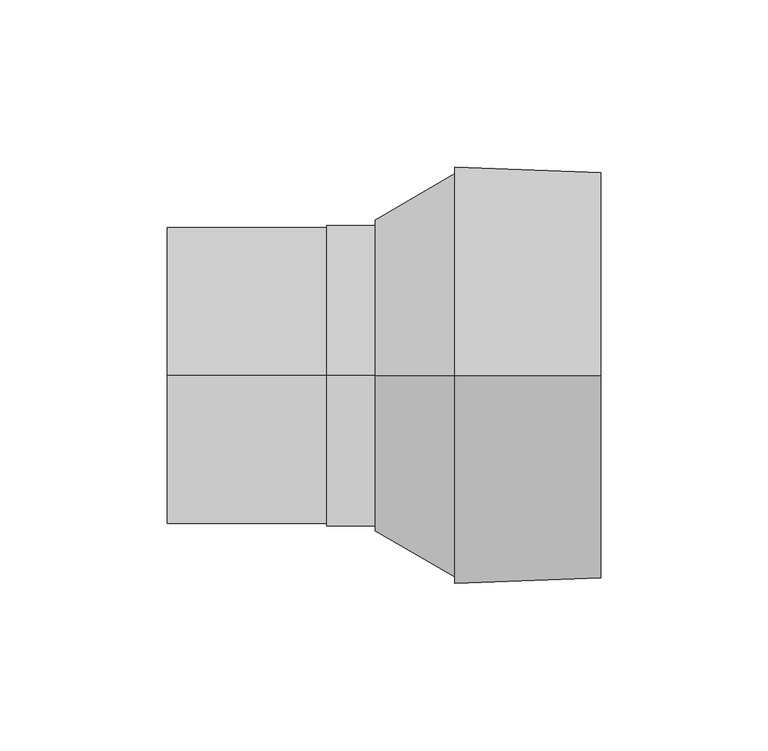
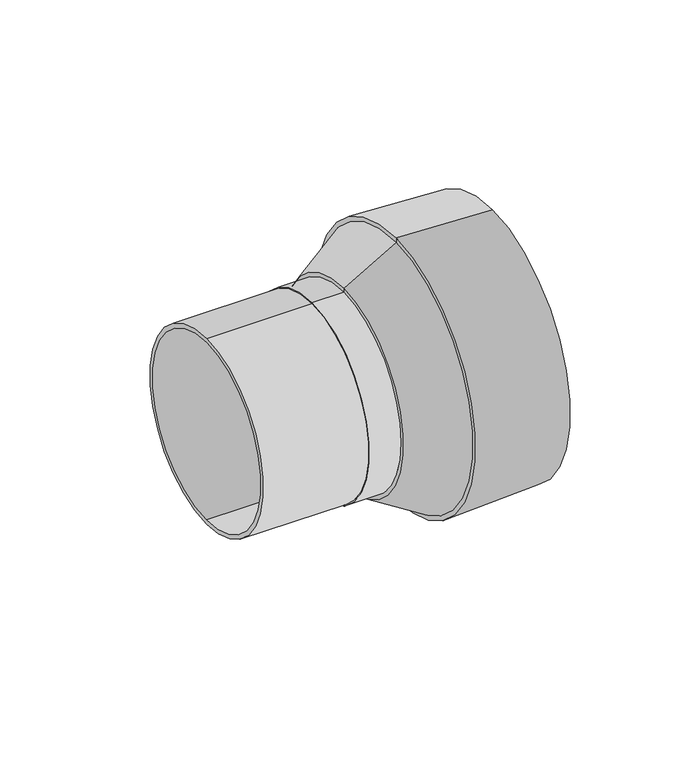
"""IFC4 building model written with IfcOpenShell, lengths in millimetres: valve geometry, Superdrain_Maxi-Vent : Superdrain Maxi-Vent DN100."""

import ifcopenshell
import ifcopenshell.guid

model = None  # the IFC model being written
_history = None  # IfcOwnerHistory: only IFC2X3 demands one
_inside = {}  # id of a spatial element -> (the spatial element, [elements in it])
_under = {}  # id of a project, library or spatial element -> (it, [spatial elements below it])
_declared = {}  # id of a project -> (the project, [libraries it declares])
_typed = {}  # id of a type object -> (the type object, [elements of that type])
_made_of = {}  # id of a material, layer set ... -> (it, [elements and type objects made of it])


def new_model(schema):
    """Start an empty IFC model of exactly this schema.

    Asked for "IFC4X3", IfcOpenShell would pick the latest addendum, in which some entities
    have other attributes; the version numbers below select the first issue.
    IFC2X3 requires an IfcOwnerHistory on every rooted entity: one is made here for all.
    """
    global model, _history
    if schema == "IFC4X3":
        model = ifcopenshell.file(schema_version=(4, 3, 0, 0))
    else:
        model = ifcopenshell.file(schema=schema)
    _inside.clear()
    _under.clear()
    _declared.clear()
    _typed.clear()
    _made_of.clear()
    _history = None
    if model.schema == "IFC2X3":
        org = make("IfcOrganization", Name="unknown")
        user = make(
            "IfcPersonAndOrganization",
            ThePerson=make("IfcPerson", FamilyName="unknown"),
            TheOrganization=org,
        )
        app = make(
            "IfcApplication",
            ApplicationDeveloper=org,
            Version="unknown",
            ApplicationFullName="unknown",
            ApplicationIdentifier="unknown",
        )
        _history = make(
            "IfcOwnerHistory",
            OwningUser=user,
            OwningApplication=app,
            ChangeAction="ADDED",
            CreationDate=0,
        )
    return model


def make(cls, **values):
    """One entity of the class cls with the attributes given. An attribute that is None is left unset."""
    return model.create_entity(
        cls, **{name: value for name, value in values.items() if value is not None}
    )


def rooted(cls, **values):
    """An entity with a GlobalId (a new one), such as an element, a storey or a relation."""
    return make(cls, GlobalId=ifcopenshell.guid.new(), OwnerHistory=_history, **values)


def si_unit(unit_type, name, prefix=None):
    """IfcSIUnit, for example si_unit("LENGTHUNIT", "METRE", prefix="MILLI")."""
    return make("IfcSIUnit", UnitType=unit_type, Prefix=prefix, Name=name)


def assignment(units):
    """IfcUnitAssignment: the units of a project."""
    return None if units is None else make("IfcUnitAssignment", Units=units)


def point(xyz):
    """IfcCartesianPoint."""
    return None if xyz is None else make("IfcCartesianPoint", Coordinates=xyz)


def direction(xyz):
    """IfcDirection."""
    return None if xyz is None else make("IfcDirection", DirectionRatios=xyz)


def frame(location, z_axis=None, x_axis=None):
    """IfcAxis2Placement3D, a coordinate frame: its origin and axes. An axis left out is left unset."""
    return make(
        "IfcAxis2Placement3D",
        Location=point(location),
        Axis=direction(z_axis),
        RefDirection=direction(x_axis),
    )


def origin():
    """The frame at (0, 0, 0) with its axes left unset."""
    return frame((0.0, 0.0, 0.0))


def place(relative_to, where):
    """IfcLocalPlacement: puts the frame where relative to a parent placement (None: the world)."""
    return make(
        "IfcLocalPlacement", PlacementRelTo=relative_to, RelativePlacement=where
    )


def context(
    kind, dimensions, precision=None, world=None, true_north=None, identifier=None
):
    """IfcGeometricRepresentationContext, for example the 3D "Model" context."""
    return make(
        "IfcGeometricRepresentationContext",
        ContextIdentifier=identifier,
        ContextType=kind,
        CoordinateSpaceDimension=dimensions,
        Precision=precision,
        WorldCoordinateSystem=world,
        TrueNorth=true_north,
    )


def project(units=None, contexts=None):
    """IfcProject with its units and contexts."""
    return rooted(
        "IfcProject",
        Name="project",
        RepresentationContexts=contexts,
        UnitsInContext=assignment(units),
    )


def spatial(cls, under=None, at=None, **own):
    """A site, building, storey or space (cls), placed at a placement, below another one or the project."""
    s = rooted(cls, ObjectPlacement=at, **own)
    if under is not None:
        _under.setdefault(under.id(), (under, []))[1].append(s)
    return s


def polyline(points):
    """IfcPolyline through the points."""
    return make("IfcPolyline", Points=[point(p) for p in points])


def circle_curve(where, radius):
    """IfcCircle in the frame where."""
    return make("IfcCircle", Position=where, Radius=radius)


def shape(context_of_items, identifier, shape_type, items):
    """IfcShapeRepresentation: the items that make up one representation, for example the "Body"."""
    return make(
        "IfcShapeRepresentation",
        ContextOfItems=context_of_items,
        RepresentationIdentifier=identifier,
        RepresentationType=shape_type,
        Items=items,
    )


def source(mapping_origin, context_of_items, identifier, shape_type, items):
    """IfcRepresentationMap: a shape defined once, which mapped items show again and again."""
    return make(
        "IfcRepresentationMap",
        MappingOrigin=mapping_origin,
        MappedRepresentation=shape(context_of_items, identifier, shape_type, items),
    )


def transform(
    local_origin,
    x_axis=None,
    y_axis=None,
    z_axis=None,
    scale=None,
    scale2=None,
    scale3=None,
    uniform=True,
):
    """IfcCartesianTransformationOperator3D, or its non-uniform kind. x_axis, y_axis, z_axis: its Axis1, 2, 3."""
    if uniform:
        return make(
            "IfcCartesianTransformationOperator3D",
            Axis1=direction(x_axis),
            Axis2=direction(y_axis),
            LocalOrigin=point(local_origin),
            Scale=scale,
            Axis3=direction(z_axis),
        )
    return make(
        "IfcCartesianTransformationOperator3DnonUniform",
        Axis1=direction(x_axis),
        Axis2=direction(y_axis),
        LocalOrigin=point(local_origin),
        Scale=scale,
        Axis3=direction(z_axis),
        Scale2=scale2,
        Scale3=scale3,
    )


def mapped(mapping_source, mapping_target):
    """IfcMappedItem: shows the shape of a source again, moved by a transform."""
    return make(
        "IfcMappedItem", MappingSource=mapping_source, MappingTarget=mapping_target
    )


def made_of(thing, what):
    """Note that an element or type object is made of a material, layer set ...; save() writes the relation."""
    if what is not None:
        _made_of.setdefault(what.id(), (what, []))[1].append(thing)
    return thing


def element(
    cls,
    number,
    at=None,
    inside=None,
    cuts=None,
    type_object=None,
    material=None,
    context=None,
    identifier="Body",
    shape_type=None,
    held_by="IfcProductDefinitionShape",
    body=None,
    shapes=None,
    **own,
):
    """One element of the class cls, such as IfcWall. Its Tag is "e" and its number.

    at: its placement. inside: the storey or other place that contains it. cuts: it is an
    opening in that element (IfcRelVoidsElement). A single representation is given by context,
    identifier, shape_type and body (its items); several are given by shapes. held_by: the class
    of the entity that holds the representations. save() writes the other relations.
    """
    e = rooted(cls, Tag="e%d" % number, ObjectPlacement=at, **own)
    if body is not None:
        shapes = [shape(context, identifier, shape_type, body)]
    if shapes is not None:
        e.Representation = make(held_by, Representations=shapes)
    if inside is not None:
        _inside.setdefault(inside.id(), (inside, []))[1].append(e)
    if cuts is not None:
        rooted(
            "IfcRelVoidsElement", RelatingBuildingElement=cuts, RelatedOpeningElement=e
        )
    if type_object is not None:
        _typed.setdefault(type_object.id(), (type_object, []))[1].append(e)
    return made_of(e, material)


def aggregate(whole, parts):
    """IfcRelAggregates: a whole, such as a stair, and the parts it consists of."""
    return rooted("IfcRelAggregates", RelatingObject=whole, RelatedObjects=parts)


def save(model, path):
    """Write the relations noted so far, then the file.

    IfcRelAggregates (storeys below a building ...), IfcRelContainedInSpatialStructure (elements
    in a storey), IfcRelDefinesByType, IfcRelAssociatesMaterial and IfcRelDeclares: one each for
    every whole, place, type object, material and project.
    """
    for whole, parts in _under.values():
        aggregate(whole, parts)
    for where, things in _inside.values():
        rooted(
            "IfcRelContainedInSpatialStructure",
            RelatedElements=things,
            RelatingStructure=where,
        )
    for kind, things in _typed.values():
        rooted("IfcRelDefinesByType", RelatedObjects=things, RelatingType=kind)
    for what, things in _made_of.values():
        rooted("IfcRelAssociatesMaterial", RelatedObjects=things, RelatingMaterial=what)
    for by, libraries in _declared.values():
        rooted("IfcRelDeclares", RelatingContext=by, RelatedDefinitions=libraries)
    model.write(path)


def plane_surface(at):
    """IfcPlane: the flat surface through the origin of the frame at, square to its z axis."""
    return make("IfcPlane", Position=at)


def cylinder_surface(at, radius):
    """IfcCylindricalSurface: all points at the distance radius from the z axis of the frame at."""
    return make("IfcCylindricalSurface", Position=at, Radius=radius)


def revolved_surface(curve, axis_point, axis_direction):
    """IfcSurfaceOfRevolution: the curve turned about the line through axis_point along axis_direction."""
    return make(
        "IfcSurfaceOfRevolution",
        SweptCurve=make("IfcArbitraryOpenProfileDef", ProfileType="CURVE", Curve=curve),
        AxisPosition=make("IfcAxis1Placement", Location=point(axis_point), Axis=direction(axis_direction)),
    )


def advanced_brep(points, edges, surfaces, faces):
    """IfcAdvancedBrep: a solid bounded by faces that lie on surfaces and meet in shared edges.

    An edge is (start, end): straight between two places in points (the first is 0);
    or (start, end, curve); or (start, end, curve, False) where it runs against its curve.
    A face is (place in surfaces, loops), or (place, loops, False) where it looks against
    its surface's normal. A loop lists edges by number (the first is 1), with a minus sign
    where the edge is run from its end to its start. The first loop is the outer one.
    """
    corners = [point(p) for p in points]
    vertices = [make("IfcVertexPoint", VertexGeometry=c) for c in corners]
    made = []
    for start, end, *more in edges:
        made.append(
            make(
                "IfcEdgeCurve",
                EdgeStart=vertices[start],
                EdgeEnd=vertices[end],
                EdgeGeometry=more[0] if more else make("IfcPolyline", Points=[corners[start], corners[end]]),
                SameSense=more[1] if len(more) > 1 else True,
            )
        )
    hull = []
    for where, loops, *sense in faces:
        bounds = []
        for j, loop in enumerate(loops):
            ring = [make("IfcOrientedEdge", EdgeElement=made[abs(k) - 1], Orientation=k > 0) for k in loop]
            bounds.append(
                make(
                    "IfcFaceOuterBound" if j == 0 else "IfcFaceBound",
                    Bound=make("IfcEdgeLoop", EdgeList=ring),
                    Orientation=True,
                )
            )
        hull.append(make("IfcAdvancedFace", Bounds=bounds, FaceSurface=surfaces[where], SameSense=sense[0] if sense else True))
    return make("IfcAdvancedBrep", Outer=make("IfcClosedShell", CfsFaces=hull))


def valve_1a6bec72(model_context):
    return source(origin(), model_context, "Body", "AdvancedBrep", [
        advanced_brep(
        [(47.77, 0.0, 45.0), (47.77, 0.0, -45.0), (47.77, 0.0, 44.5), (47.77, 0.0, -44.5), (47.77, 0.0, -42.5), (47.77, 0.0, 42.5), (62.15, 0.0, -45.0), (62.15, 0.0, 45.0), (0.0, 0.0, 44.5), (0.0, 0.0, -44.5), (0.0, 0.0, 42.5), (0.0, 0.0, -42.5), (85.9661124, 0.0, -62.6574122), (85.9661124, 0.0, 62.6574122), (129.6668832, 0.0, 60.970847), (129.6668832, 0.0, -60.970847), (62.15, 0.0, 46.7606512), (62.15, 0.0, -46.7606512), (85.9661124, 0.0, -60.6574122), (85.9661124, 0.0, 60.6574122), (126.6668832, 0.0, -30.4854235), (126.6668832, 0.0, 30.4854235), (126.6668832, 0.0, 0.0)],
        [
            (0, 1, circle_curve(frame((47.77, 0.0, 0.0), z_axis=(-1.0, 0.0, 0.0), x_axis=(0.0, 0.0, -1.0)), 45.0)),
            (1, 0, circle_curve(frame((47.77, 0.0, 0.0), z_axis=(-1.0, 0.0, 0.0), x_axis=(0.0, 0.0, -1.0)), 45.0)),
            (2, 3, circle_curve(frame((47.77, 0.0, 0.0), z_axis=(1.0, 0.0, 0.0), x_axis=(0.0, 0.0, -1.0)), 44.5)),
            (3, 2, circle_curve(frame((47.77, 0.0, 0.0), z_axis=(1.0, 0.0, 0.0), x_axis=(0.0, 0.0, -1.0)), 44.5)),
            (4, 5, circle_curve(frame((47.77, 0.0, 0.0), z_axis=(-1.0, 0.0, 0.0), x_axis=(0.0, 0.0, -1.0)), 42.5)),
            (5, 4, circle_curve(frame((47.77, 0.0, 0.0), z_axis=(-1.0, 0.0, 0.0), x_axis=(0.0, 0.0, -1.0)), 42.5)),
            (1, 6),
            (6, 7, circle_curve(frame((62.15, 0.0, 0.0), z_axis=(-1.0, 0.0, 0.0), x_axis=(0.0, 0.0, -1.0)), 45.0)),
            (7, 0),
            (7, 6, circle_curve(frame((62.15, 0.0, 0.0), z_axis=(-1.0, 0.0, 0.0), x_axis=(0.0, 0.0, -1.0)), 45.0)),
            (8, 9, circle_curve(frame((0.0, 0.0, 0.0), z_axis=(-1.0, 0.0, 0.0), x_axis=(0.0, 0.0, -1.0)), 44.5)),
            (9, 8, circle_curve(frame((0.0, 0.0, 0.0), z_axis=(-1.0, 0.0, 0.0), x_axis=(0.0, 0.0, -1.0)), 44.5)),
            (10, 11, circle_curve(frame((0.0, 0.0, 0.0), z_axis=(1.0, 0.0, 0.0), x_axis=(0.0, 0.0, -1.0)), 42.5)),
            (11, 10, circle_curve(frame((0.0, 0.0, 0.0), z_axis=(1.0, 0.0, 0.0), x_axis=(0.0, 0.0, -1.0)), 42.5)),
            (9, 3),
            (2, 8),
            (10, 5),
            (4, 11),
            (12, 13, circle_curve(frame((85.9661124, 0.0, 0.0), z_axis=(1.0, 0.0, 0.0), x_axis=(0.0, 0.0, 1.0)), 62.6574122)),
            (13, 14),
            (14, 15, circle_curve(frame((129.6668832, 0.0, 0.0), z_axis=(-1.0, 0.0, 0.0), x_axis=(0.0, 0.0, 1.0)), 60.970847)),
            (15, 12),
            (13, 12, circle_curve(frame((85.9661124, 0.0, 0.0), z_axis=(1.0, 0.0, 0.0), x_axis=(0.0, 0.0, 1.0)), 62.6574122)),
            (15, 14, circle_curve(frame((129.6668832, 0.0, 0.0), z_axis=(-1.0, 0.0, 0.0), x_axis=(0.0, 0.0, 1.0)), 60.970847)),
            (16, 17, circle_curve(frame((62.15, 0.0, 0.0), z_axis=(-1.0, 0.0, 0.0), x_axis=(0.0, 0.0, 1.0)), 46.7606512)),
            (17, 6),
            (7, 16),
            (17, 16, circle_curve(frame((62.15, 0.0, 0.0), z_axis=(-1.0, 0.0, 0.0), x_axis=(0.0, 0.0, 1.0)), 46.7606512)),
            (12, 18),
            (18, 19, circle_curve(frame((85.9661124, 0.0, 0.0), z_axis=(1.0, 0.0, 0.0), x_axis=(0.0, 0.0, 1.0)), 60.6574122)),
            (19, 13),
            (19, 18, circle_curve(frame((85.9661124, 0.0, 0.0), z_axis=(1.0, 0.0, 0.0), x_axis=(0.0, 0.0, 1.0)), 60.6574122)),
            (16, 19),
            (18, 17),
            (20, 21, circle_curve(frame((126.6668832, 0.0, 0.0), z_axis=(1.0, 0.0, 0.0), x_axis=(0.0, 0.0, 1.0)), 30.4854235)),
            (21, 22),
            (22, 20),
            (21, 20, circle_curve(frame((126.6668832, 0.0, 0.0), z_axis=(1.0, 0.0, 0.0), x_axis=(0.0, 0.0, 1.0)), 30.4854235)),
            (14, 21),
            (20, 15),
        ],
        [
            plane_surface(frame((47.77, 0.0, -45.0), z_axis=(-1.0, 0.0, 0.0), x_axis=(0.0, -1.0, 0.0))),
            cylinder_surface(frame((47.77, 0.0, 0.0), z_axis=(1.0, 0.0, 0.0), x_axis=(0.0, 0.0, -1.0)), 45.0),
            plane_surface(frame((0.0, 0.0, -44.5), z_axis=(-1.0, 0.0, 0.0), x_axis=(0.0, -1.0, 0.0))),
            cylinder_surface(frame((0.0, 0.0, 0.0), z_axis=(1.0, 0.0, 0.0), x_axis=(0.0, 0.0, -1.0)), 44.5),
            revolved_surface(polyline([(0.0, 0.0, -42.5), (47.77, 0.0, -42.5)]), (0.0, 0.0, 0.0), (-1.0, 0.0, 0.0)),
            revolved_surface(polyline([(129.6668832, 0.0, 60.970847), (85.9661124, 0.0, 62.6574122)]), (68.8087367, 0.0, 0.0), (-1.0, 0.0, 0.0)),
            plane_surface(frame((62.15, 0.0, 0.0), z_axis=(-1.0, 0.0, 0.0), x_axis=(0.0, 0.0, 1.0))),
            plane_surface(frame((85.9661124, 0.0, 0.0), z_axis=(-1.0, 0.0, 0.0), x_axis=(0.0, 0.0, 1.0))),
            revolved_surface(polyline([(85.9661124, 0.0, 60.6574122), (62.15, 0.0, 46.7606512)]), (68.8087367, 0.0, 0.0), (-1.0, 0.0, 0.0)),
            plane_surface(frame((126.6668832, 0.0, 0.0), z_axis=(1.0, 0.0, 0.0), x_axis=(0.0, 0.0, 1.0))),
            revolved_surface(polyline([(126.6668832, 0.0, 30.4854235), (129.6668832, 0.0, 60.970847)]), (68.8087367, 0.0, 0.0), (-1.0, 0.0, 0.0)),
        ],
        [
            (0, [[1, 2], [3, 4]]),
            (0, [[5, 6]]),
            (1, [[-2, 7, 8, 9]]),
            (1, [[-1, -9, 10, -7]]),
            (2, [[11, 12], [13, 14]]),
            (3, [[-12, 15, -3, 16]]),
            (3, [[-11, -16, -4, -15]]),
            (4, [[-13, 17, -5, 18]]),
            (4, [[-14, -18, -6, -17]]),
            (5, [[19, 20, 21, 22]]),
            (5, [[-20, 23, -22, 24]]),
            (6, [[25, 26, -10, 27]]),
            (6, [[28, -27, -8, -26]]),
            (7, [[-19, 29, 30, 31]]),
            (7, [[-23, -31, 32, -29]]),
            (8, [[-25, 33, -30, 34]]),
            (8, [[-28, -34, -32, -33]]),
            (9, [[35, 36, 37]]),
            (9, [[-36, 38, -37]]),
            (10, [[-21, 39, -35, 40]]),
            (10, [[-24, -40, -38, -39]]),
        ],
    ),
    ])


if __name__ == "__main__":
    model = new_model("IFC4")
    model_context = context("Model", 3, world=origin())
    ifc_project = project(units=[si_unit("LENGTHUNIT", "METRE", prefix="MILLI")], contexts=[model_context])
    site = spatial("IfcSite", under=ifc_project)
    building = spatial("IfcBuilding", under=site)
    placement = place(None, origin())
    valve_shape = valve_1a6bec72(model_context)
    element("IfcValve", 1, ObjectType="Superdrain_Maxi-Vent : Superdrain Maxi-Vent DN100", at=placement, inside=building, context=model_context, shape_type="MappedRepresentation", body=[
        mapped(valve_shape, transform((0.0, 0.0, 0.0), x_axis=(1.0, 0.0, 0.0), y_axis=(0.0, 1.0, 0.0), z_axis=(0.0, 0.0, 1.0))),
    ])
    save(model, "model.ifc")
